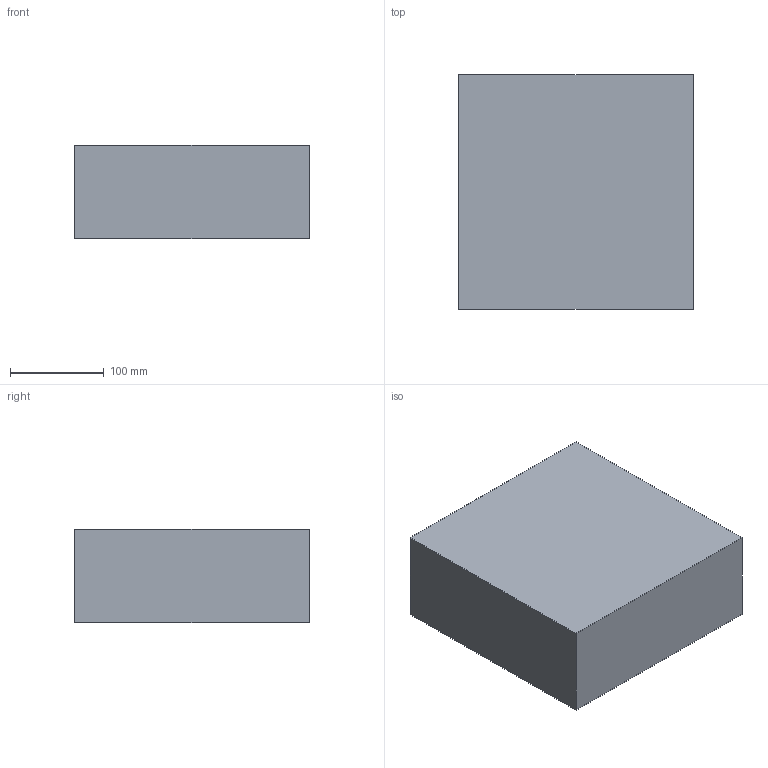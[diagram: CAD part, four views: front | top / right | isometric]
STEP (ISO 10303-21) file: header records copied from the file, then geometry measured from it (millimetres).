
FILE_DESCRIPTION(/* description */ (''),/* implementation_level */ '2;1');
FILE_NAME(/* name */ 'EG (-X) 140 Q.stp',/* time_stamp */ '2024-09-26T16:41:09+02:00',/* author */ ('d.streicher'),/* organization */ (''),/* preprocessor_version */ 'ST-DEVELOPER v20',/* originating_system */ 'Autodesk Inventor 2025',/* authorisation */ '');
FILE_SCHEMA (('AUTOMOTIVE_DESIGN { 1 0 10303 214 3 1 1 }'));
Length unit declared in the file: millimetre
Products named in the file (1): EG (-X) 140 Q
Bounding box: 250 x 250 x 100 mm (x, y, z)
Volume: 1854160 mm3; surface area: 377506 mm2
Topology: 4 solids, 4 shells, 28 faces, 54 edges, 36 vertices
Faces by surface type: plane 22, cylinder 6
Full cylindrical faces by diameter (mm): 4 x6
Entity records: 799 total; most frequent: DIRECTION 124, CARTESIAN_POINT 119, ORIENTED_EDGE 108, EDGE_CURVE 54, LINE 42, VECTOR 42, AXIS2_PLACEMENT_3D 41, EDGE_LOOP 36
